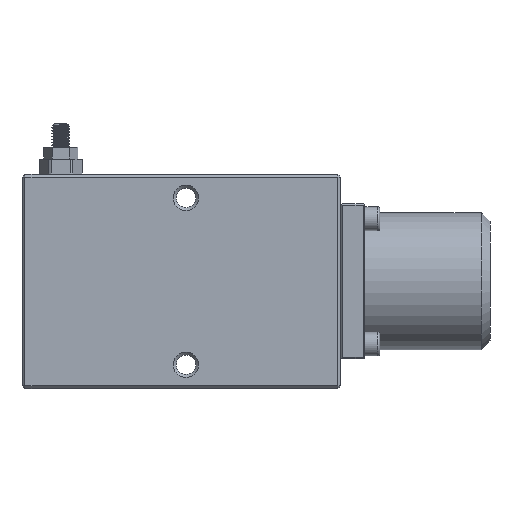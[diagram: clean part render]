
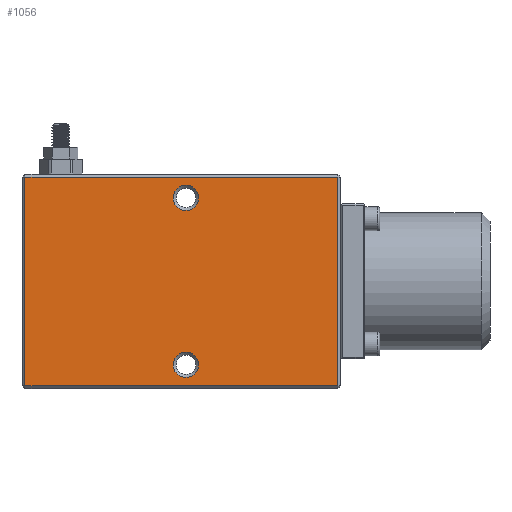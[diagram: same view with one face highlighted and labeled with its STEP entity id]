
A CAD part, front view. The second image highlights one B-rep face of the part: STEP entity #1056.
In plain terms, the highlighted planar face has unit normal (0, -1, 0).
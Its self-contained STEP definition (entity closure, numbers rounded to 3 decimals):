
#666=PLANE('',#4253);
#1056=ADVANCED_FACE('',(#1762,#1763,#1764),#666,.T.);
#1339=LINE('',#8757,#1595);
#1340=LINE('',#8760,#1596);
#1341=LINE('',#8762,#1597);
#1342=LINE('',#8764,#1598);
#1595=VECTOR('',#4752,1.);
#1596=VECTOR('',#4753,1.);
#1597=VECTOR('',#4754,1.);
#1598=VECTOR('',#4755,1.);
#1762=FACE_BOUND('',#1931,.T.);
#1763=FACE_BOUND('',#1932,.T.);
#1764=FACE_BOUND('',#1933,.T.);
#1931=EDGE_LOOP('',(#2716));
#1932=EDGE_LOOP('',(#2717));
#1933=EDGE_LOOP('',(#2718,#2719,#2720,#2721));
#2716=ORIENTED_EDGE('',*,*,#3812,.T.);
#2717=ORIENTED_EDGE('',*,*,#3813,.T.);
#2718=ORIENTED_EDGE('',*,*,#3814,.T.);
#2719=ORIENTED_EDGE('',*,*,#3815,.T.);
#2720=ORIENTED_EDGE('',*,*,#3816,.T.);
#2721=ORIENTED_EDGE('',*,*,#3817,.T.);
#3400=VERTEX_POINT('',#8754);
#3401=VERTEX_POINT('',#8756);
#3402=VERTEX_POINT('',#8758);
#3403=VERTEX_POINT('',#8759);
#3404=VERTEX_POINT('',#8761);
#3405=VERTEX_POINT('',#8763);
#3812=EDGE_CURVE('',#3400,#3400,#4092,.T.);
#3813=EDGE_CURVE('',#3401,#3401,#4093,.T.);
#3814=EDGE_CURVE('',#3402,#3403,#1339,.T.);
#3815=EDGE_CURVE('',#3403,#3404,#1340,.T.);
#3816=EDGE_CURVE('',#3404,#3405,#1341,.T.);
#3817=EDGE_CURVE('',#3405,#3402,#1342,.T.);
#4092=CIRCLE('',#4251,4.25);
#4093=CIRCLE('',#4252,4.25);
#4251=AXIS2_PLACEMENT_3D('',#8753,#4748,#4749);
#4252=AXIS2_PLACEMENT_3D('',#8755,#4750,#4751);
#4253=AXIS2_PLACEMENT_3D('',#8765,#4756,#4757);
#4748=DIRECTION('',(0.,1.,0.));
#4749=DIRECTION('',(0.,0.,-1.));
#4750=DIRECTION('',(0.,1.,0.));
#4751=DIRECTION('',(0.,0.,-1.));
#4752=DIRECTION('',(1.,0.,0.));
#4753=DIRECTION('',(0.,0.,1.));
#4754=DIRECTION('',(-1.,0.,0.));
#4755=DIRECTION('',(0.,0.,-1.));
#4756=DIRECTION('',(0.,-1.,0.));
#4757=DIRECTION('',(0.,0.,-1.));
#8753=CARTESIAN_POINT('',(55.,0.,8.));
#8754=CARTESIAN_POINT('',(55.,0.,3.75));
#8755=CARTESIAN_POINT('',(55.,0.,64.));
#8756=CARTESIAN_POINT('',(55.,0.,59.75));
#8757=CARTESIAN_POINT('',(53.5,0.,1.));
#8758=CARTESIAN_POINT('',(1.,0.,1.));
#8759=CARTESIAN_POINT('',(106.,0.,1.));
#8760=CARTESIAN_POINT('',(106.,0.,0.));
#8761=CARTESIAN_POINT('',(106.,0.,71.));
#8762=CARTESIAN_POINT('',(53.5,0.,71.));
#8763=CARTESIAN_POINT('',(1.,0.,71.));
#8764=CARTESIAN_POINT('',(1.,0.,0.));
#8765=CARTESIAN_POINT('',(53.5,0.,0.));
